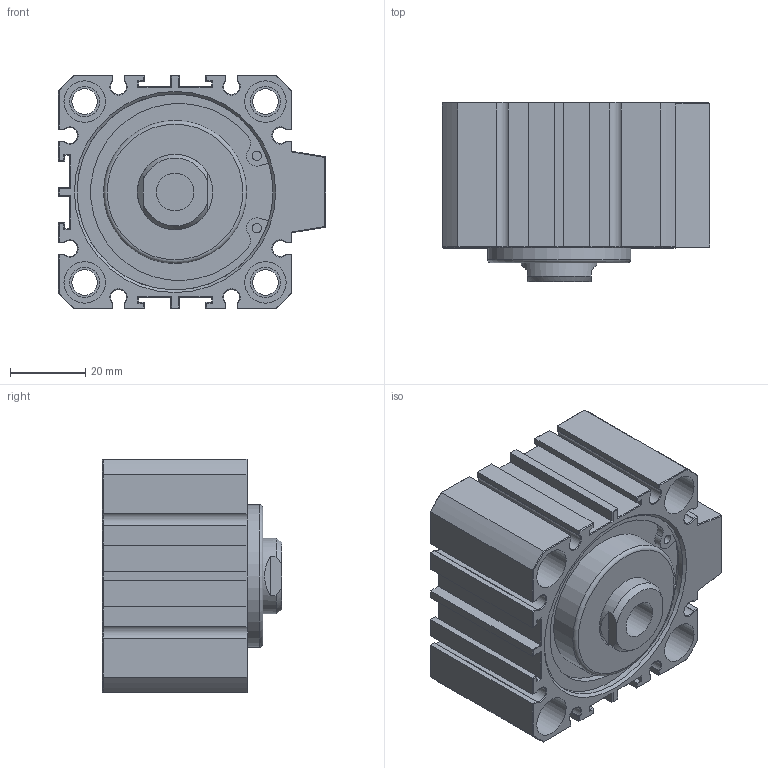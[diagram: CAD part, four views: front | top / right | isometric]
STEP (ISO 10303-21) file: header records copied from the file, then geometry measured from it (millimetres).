
FILE_DESCRIPTION(/* description */ (''),/* implementation_level */ '2;1');
FILE_NAME(/* name */ 'AJC-SD50X10N',/* time_stamp */ '2019-06-13T16:07:50+08:00',/* author */ ('JEFF HUANG'),/* organization */ ('TAIWAN AMAC CLAMP INDUSTRIAL CO., LTD.'),/* preprocessor_version */ 'ST-DEVELOPER v16.7',/* originating_system */ 'DEX',/* authorisation */ $);
FILE_SCHEMA (('AUTOMOTIVE_DESIGN {1 0 10303 214 3 1 1}'));
Length unit declared in the file: millimetre
Products named in the file (1): Part14
Bounding box: 71 x 47.6 x 62 mm (x, y, z)
Volume: 126879.1 mm3; surface area: 30620.8 mm2
Topology: 1 solids, 1 shells, 382 faces, 856 edges, 472 vertices
Faces by surface type: plane 246, cylinder 72, cone 62, torus 2
Full cylindrical faces by diameter (mm): 2.5 x4, 6.8 x4, 8 x8, 10 x1, 11 x8, 12.301 x2, 20 x1, 38 x2, 52 x2
Entity records: 12512 total; most frequent: DIRECTION 1708, CARTESIAN_POINT 1691, ORIENTED_EDGE 1562, EDGE_CURVE 781, LINE 580, VECTOR 580, AXIS2_PLACEMENT_3D 564, VERTEX_POINT 467
